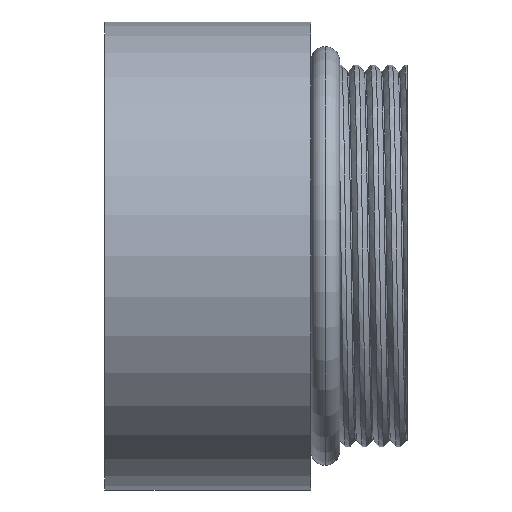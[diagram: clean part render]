
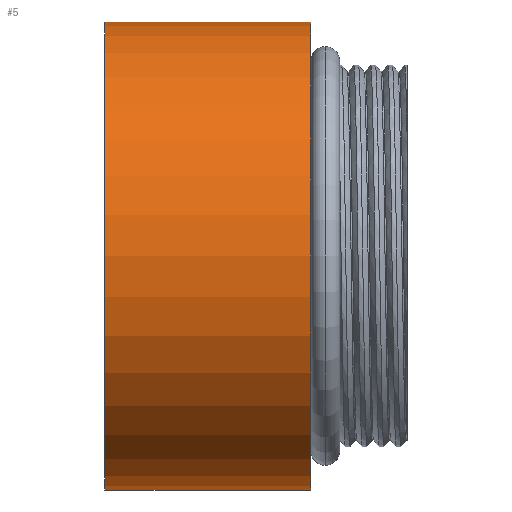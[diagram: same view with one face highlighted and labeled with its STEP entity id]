
A CAD part, front view. The second image highlights one B-rep face of the part: STEP entity #5.
In plain terms, the highlighted cylindrical face has radius 19.456 mm (diameter 38.913 mm), a partial arc.
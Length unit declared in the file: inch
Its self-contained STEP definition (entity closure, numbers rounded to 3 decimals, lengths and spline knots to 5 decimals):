
#1 = ORIENTED_EDGE ( 'NONE', *, *, #117, .F. ) ;
#2 = EDGE_LOOP ( 'NONE', ( #1, #461, #454, #455 ) ) ;
#5 = ADVANCED_FACE ( 'NONE', ( #642 ), #640, .T. ) ;
#114 = VERTEX_POINT ( 'NONE', #802 ) ;
#115 = VERTEX_POINT ( 'NONE', #801 ) ;
#117 = EDGE_CURVE ( 'NONE', #115, #118, #800, .T. ) ;
#118 = VERTEX_POINT ( 'NONE', #796 ) ;
#127 = VERTEX_POINT ( 'NONE', #883 ) ;
#133 = EDGE_CURVE ( 'NONE', #114, #127, #855, .T. ) ;
#371 = EDGE_CURVE ( 'NONE', #115, #114, #1890, .T. ) ;
#454 = ORIENTED_EDGE ( 'NONE', *, *, #133, .T. ) ;
#455 = ORIENTED_EDGE ( 'NONE', *, *, #456, .F. ) ;
#456 = EDGE_CURVE ( 'NONE', #118, #127, #3304, .T. ) ;
#461 = ORIENTED_EDGE ( 'NONE', *, *, #371, .T. ) ;
#573 = DIRECTION ( 'NONE',  ( 0., 0., 1. ) ) ;
#574 = DIRECTION ( 'NONE',  ( -1., 0., 0. ) ) ;
#639 = AXIS2_PLACEMENT_3D ( 'NONE', #641, #574, #573 ) ;
#640 = CYLINDRICAL_SURFACE ( 'NONE', #639, 0.766 ) ;
#641 = CARTESIAN_POINT ( 'NONE',  ( -0.11095, 0., 0. ) ) ;
#642 = FACE_OUTER_BOUND ( 'NONE', #2, .T. ) ;
#796 = CARTESIAN_POINT ( 'NONE',  ( 0., 0., -0.766 ) ) ;
#797 = DIRECTION ( 'NONE',  ( -1., 0., 0. ) ) ;
#798 = VECTOR ( 'NONE', #797, 39.37008 ) ;
#799 = CARTESIAN_POINT ( 'NONE',  ( -0.11095, 0., -0.766 ) ) ;
#800 = LINE ( 'NONE', #799, #798 ) ;
#801 = CARTESIAN_POINT ( 'NONE',  ( 0.674, 0., -0.766 ) ) ;
#802 = CARTESIAN_POINT ( 'NONE',  ( 0.674, 0., 0.766 ) ) ;
#852 = DIRECTION ( 'NONE',  ( -1., 0., 0. ) ) ;
#853 = VECTOR ( 'NONE', #852, 39.37008 ) ;
#854 = CARTESIAN_POINT ( 'NONE',  ( -0.11095, 0., 0.766 ) ) ;
#855 = LINE ( 'NONE', #854, #853 ) ;
#883 = CARTESIAN_POINT ( 'NONE',  ( 0., 0., 0.766 ) ) ;
#1887 = DIRECTION ( 'NONE',  ( 0., 0., 1. ) ) ;
#1888 = DIRECTION ( 'NONE',  ( -1., 0., 0. ) ) ;
#1889 = AXIS2_PLACEMENT_3D ( 'NONE', #1895, #1888, #1887 ) ;
#1890 = CIRCLE ( 'NONE', #1889, 0.766 ) ;
#1895 = CARTESIAN_POINT ( 'NONE',  ( 0.674, 0., 0. ) ) ;
#3301 = DIRECTION ( 'NONE',  ( 0., 0., 1. ) ) ;
#3302 = DIRECTION ( 'NONE',  ( -1., 0., 0. ) ) ;
#3303 = AXIS2_PLACEMENT_3D ( 'NONE', #3434, #3302, #3301 ) ;
#3304 = CIRCLE ( 'NONE', #3303, 0.766 ) ;
#3434 = CARTESIAN_POINT ( 'NONE',  ( 0., 0., 0. ) ) ;
